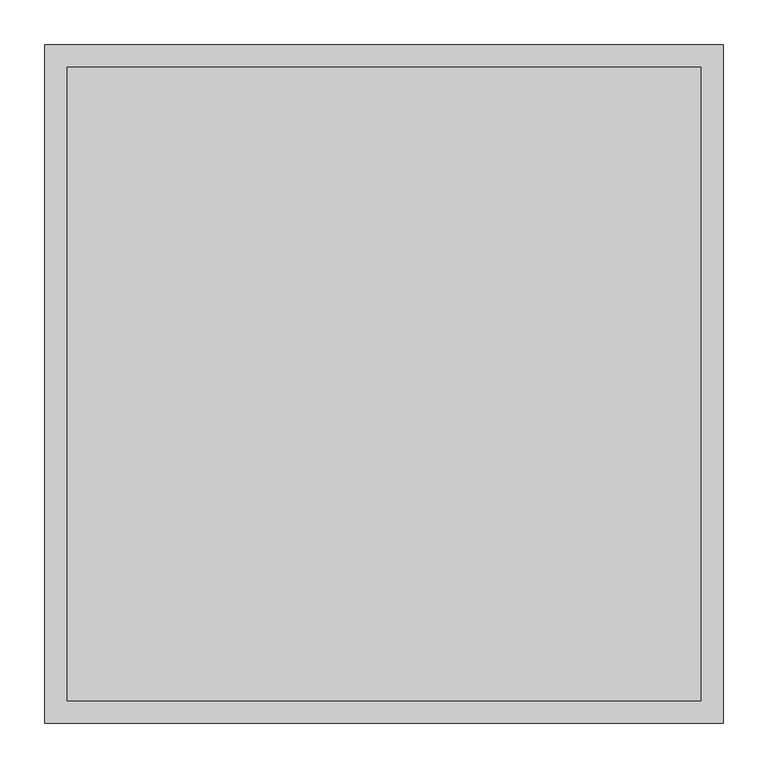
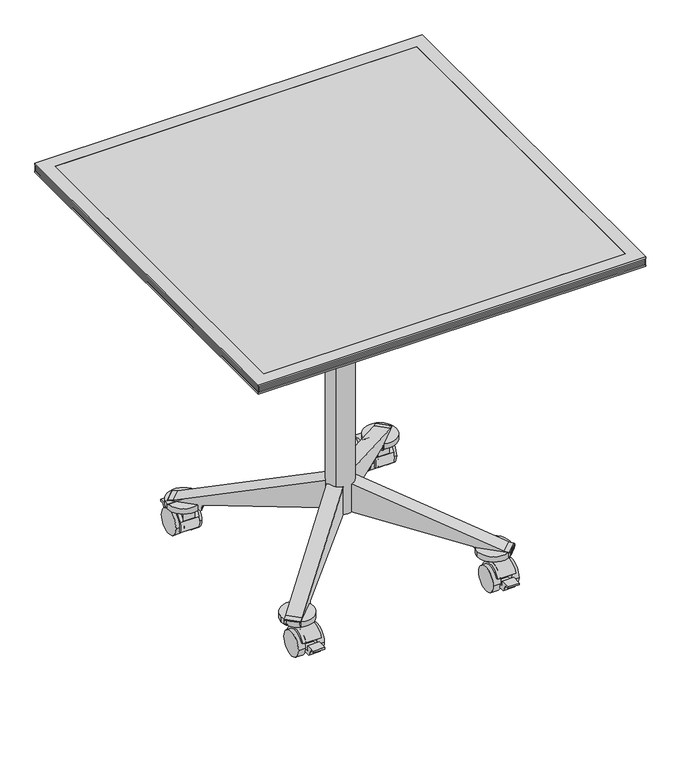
"""IFC4 building model written with IfcOpenShell, lengths in millimetres: furniture geometry, Coalesse_AM_Table_Conference_Ballet_Square : 30L x 30W - Flip/Caster."""

import ifcopenshell
import ifcopenshell.guid

model = None  # the IFC model being written
_history = None  # IfcOwnerHistory: only IFC2X3 demands one
_inside = {}  # id of a spatial element -> (the spatial element, [elements in it])
_under = {}  # id of a project, library or spatial element -> (it, [spatial elements below it])
_declared = {}  # id of a project -> (the project, [libraries it declares])
_typed = {}  # id of a type object -> (the type object, [elements of that type])
_made_of = {}  # id of a material, layer set ... -> (it, [elements and type objects made of it])


def new_model(schema):
    """Start an empty IFC model of exactly this schema.

    Asked for "IFC4X3", IfcOpenShell would pick the latest addendum, in which some entities
    have other attributes; the version numbers below select the first issue.
    IFC2X3 requires an IfcOwnerHistory on every rooted entity: one is made here for all.
    """
    global model, _history
    if schema == "IFC4X3":
        model = ifcopenshell.file(schema_version=(4, 3, 0, 0))
    else:
        model = ifcopenshell.file(schema=schema)
    _inside.clear()
    _under.clear()
    _declared.clear()
    _typed.clear()
    _made_of.clear()
    _history = None
    if model.schema == "IFC2X3":
        org = make("IfcOrganization", Name="unknown")
        user = make(
            "IfcPersonAndOrganization",
            ThePerson=make("IfcPerson", FamilyName="unknown"),
            TheOrganization=org,
        )
        app = make(
            "IfcApplication",
            ApplicationDeveloper=org,
            Version="unknown",
            ApplicationFullName="unknown",
            ApplicationIdentifier="unknown",
        )
        _history = make(
            "IfcOwnerHistory",
            OwningUser=user,
            OwningApplication=app,
            ChangeAction="ADDED",
            CreationDate=0,
        )
    return model


def make(cls, **values):
    """One entity of the class cls with the attributes given. An attribute that is None is left unset."""
    return model.create_entity(
        cls, **{name: value for name, value in values.items() if value is not None}
    )


def rooted(cls, **values):
    """An entity with a GlobalId (a new one), such as an element, a storey or a relation."""
    return make(cls, GlobalId=ifcopenshell.guid.new(), OwnerHistory=_history, **values)


def si_unit(unit_type, name, prefix=None):
    """IfcSIUnit, for example si_unit("LENGTHUNIT", "METRE", prefix="MILLI")."""
    return make("IfcSIUnit", UnitType=unit_type, Prefix=prefix, Name=name)


def assignment(units):
    """IfcUnitAssignment: the units of a project."""
    return None if units is None else make("IfcUnitAssignment", Units=units)


def point(xyz):
    """IfcCartesianPoint."""
    return None if xyz is None else make("IfcCartesianPoint", Coordinates=xyz)


def direction(xyz):
    """IfcDirection."""
    return None if xyz is None else make("IfcDirection", DirectionRatios=xyz)


def frame(location, z_axis=None, x_axis=None):
    """IfcAxis2Placement3D, a coordinate frame: its origin and axes. An axis left out is left unset."""
    return make(
        "IfcAxis2Placement3D",
        Location=point(location),
        Axis=direction(z_axis),
        RefDirection=direction(x_axis),
    )


def frame_2d(location, x_axis=None):
    """IfcAxis2Placement2D, a coordinate frame in the plane: its origin and x axis."""
    return make(
        "IfcAxis2Placement2D", Location=point(location), RefDirection=direction(x_axis)
    )


def origin():
    """The frame at (0, 0, 0) with its axes left unset."""
    return frame((0.0, 0.0, 0.0))


def place(relative_to, where):
    """IfcLocalPlacement: puts the frame where relative to a parent placement (None: the world)."""
    return make(
        "IfcLocalPlacement", PlacementRelTo=relative_to, RelativePlacement=where
    )


def context(
    kind, dimensions, precision=None, world=None, true_north=None, identifier=None
):
    """IfcGeometricRepresentationContext, for example the 3D "Model" context."""
    return make(
        "IfcGeometricRepresentationContext",
        ContextIdentifier=identifier,
        ContextType=kind,
        CoordinateSpaceDimension=dimensions,
        Precision=precision,
        WorldCoordinateSystem=world,
        TrueNorth=true_north,
    )


def project(units=None, contexts=None):
    """IfcProject with its units and contexts."""
    return rooted(
        "IfcProject",
        Name="project",
        RepresentationContexts=contexts,
        UnitsInContext=assignment(units),
    )


def spatial(cls, under=None, at=None, **own):
    """A site, building, storey or space (cls), placed at a placement, below another one or the project."""
    s = rooted(cls, ObjectPlacement=at, **own)
    if under is not None:
        _under.setdefault(under.id(), (under, []))[1].append(s)
    return s


def polyline(points):
    """IfcPolyline through the points."""
    return make("IfcPolyline", Points=[point(p) for p in points])


def circle_curve(where, radius):
    """IfcCircle in the frame where."""
    return make("IfcCircle", Position=where, Radius=radius)


def trimmed(basis, trim1, trim2, sense, master):
    """IfcTrimmedCurve: the piece of a basis curve between two trims."""
    return make(
        "IfcTrimmedCurve",
        BasisCurve=basis,
        Trim1=trim1,
        Trim2=trim2,
        SenseAgreement=sense,
        MasterRepresentation=master,
    )


def segment(curve, same_sense, transition):
    """IfcCompositeCurveSegment."""
    return make(
        "IfcCompositeCurveSegment",
        Transition=transition,
        SameSense=same_sense,
        ParentCurve=curve,
    )


def composite_curve(segments, self_intersect=None):
    """IfcCompositeCurve: segments joined end to end."""
    return make("IfcCompositeCurve", Segments=segments, SelfIntersect=self_intersect)


def outline(outer, holes=None, kind="AREA"):
    """IfcArbitraryClosedProfileDef: a profile drawn as a closed curve; with holes, ...WithVoids."""
    if holes is None:
        return make("IfcArbitraryClosedProfileDef", ProfileType=kind, OuterCurve=outer)
    return make(
        "IfcArbitraryProfileDefWithVoids",
        ProfileType=kind,
        OuterCurve=outer,
        InnerCurves=holes,
    )


def extrude(swept, where, along, depth):
    """IfcExtrudedAreaSolid: the profile swept, set in the frame where, extruded along a direction by depth."""
    return make(
        "IfcExtrudedAreaSolid",
        SweptArea=swept,
        Position=where,
        ExtrudedDirection=direction(along),
        Depth=depth,
    )


def faces_of(points, faces, orient=None, outer=None):
    """IfcFace entities. A face is a list of loops; a loop is a list of indices into points, from 0.

    orient and outer hold one flag for each loop. By default every Orientation is true, the
    first loop of a face is its IfcFaceOuterBound and the others are IfcFaceBound.
    """
    made = []
    for i, loops in enumerate(faces):
        bounds = []
        for j, loop in enumerate(loops):
            is_outer = j == 0 if outer is None else outer[i][j]
            bounds.append(
                make(
                    "IfcFaceOuterBound" if is_outer else "IfcFaceBound",
                    Bound=make("IfcPolyLoop", Polygon=[points[k] for k in loop]),
                    Orientation=True if orient is None else orient[i][j],
                )
            )
        made.append(make("IfcFace", Bounds=bounds))
    return made


def faceted_brep(points, faces, orient=None, outer=None, voids=None):
    """IfcFacetedBrep: a solid bounded by flat faces; with voids (closed shells), ...WithVoids."""
    shared = [point(p) for p in points]
    hull = make("IfcClosedShell", CfsFaces=faces_of(shared, faces, orient, outer))
    if voids is None:
        return make("IfcFacetedBrep", Outer=hull)
    return make(
        "IfcFacetedBrepWithVoids",
        Outer=hull,
        Voids=[
            make(cls, CfsFaces=faces_of(shared, fs, o, b)) for cls, fs, o, b in voids
        ],
    )


def shape(context_of_items, identifier, shape_type, items):
    """IfcShapeRepresentation: the items that make up one representation, for example the "Body"."""
    return make(
        "IfcShapeRepresentation",
        ContextOfItems=context_of_items,
        RepresentationIdentifier=identifier,
        RepresentationType=shape_type,
        Items=items,
    )


def source(mapping_origin, context_of_items, identifier, shape_type, items):
    """IfcRepresentationMap: a shape defined once, which mapped items show again and again."""
    return make(
        "IfcRepresentationMap",
        MappingOrigin=mapping_origin,
        MappedRepresentation=shape(context_of_items, identifier, shape_type, items),
    )


def transform(
    local_origin,
    x_axis=None,
    y_axis=None,
    z_axis=None,
    scale=None,
    scale2=None,
    scale3=None,
    uniform=True,
):
    """IfcCartesianTransformationOperator3D, or its non-uniform kind. x_axis, y_axis, z_axis: its Axis1, 2, 3."""
    if uniform:
        return make(
            "IfcCartesianTransformationOperator3D",
            Axis1=direction(x_axis),
            Axis2=direction(y_axis),
            LocalOrigin=point(local_origin),
            Scale=scale,
            Axis3=direction(z_axis),
        )
    return make(
        "IfcCartesianTransformationOperator3DnonUniform",
        Axis1=direction(x_axis),
        Axis2=direction(y_axis),
        LocalOrigin=point(local_origin),
        Scale=scale,
        Axis3=direction(z_axis),
        Scale2=scale2,
        Scale3=scale3,
    )


def mapped(mapping_source, mapping_target):
    """IfcMappedItem: shows the shape of a source again, moved by a transform."""
    return make(
        "IfcMappedItem", MappingSource=mapping_source, MappingTarget=mapping_target
    )


def made_of(thing, what):
    """Note that an element or type object is made of a material, layer set ...; save() writes the relation."""
    if what is not None:
        _made_of.setdefault(what.id(), (what, []))[1].append(thing)
    return thing


def element(
    cls,
    number,
    at=None,
    inside=None,
    cuts=None,
    type_object=None,
    material=None,
    context=None,
    identifier="Body",
    shape_type=None,
    held_by="IfcProductDefinitionShape",
    body=None,
    shapes=None,
    **own,
):
    """One element of the class cls, such as IfcWall. Its Tag is "e" and its number.

    at: its placement. inside: the storey or other place that contains it. cuts: it is an
    opening in that element (IfcRelVoidsElement). A single representation is given by context,
    identifier, shape_type and body (its items); several are given by shapes. held_by: the class
    of the entity that holds the representations. save() writes the other relations.
    """
    e = rooted(cls, Tag="e%d" % number, ObjectPlacement=at, **own)
    if body is not None:
        shapes = [shape(context, identifier, shape_type, body)]
    if shapes is not None:
        e.Representation = make(held_by, Representations=shapes)
    if inside is not None:
        _inside.setdefault(inside.id(), (inside, []))[1].append(e)
    if cuts is not None:
        rooted(
            "IfcRelVoidsElement", RelatingBuildingElement=cuts, RelatedOpeningElement=e
        )
    if type_object is not None:
        _typed.setdefault(type_object.id(), (type_object, []))[1].append(e)
    return made_of(e, material)


def aggregate(whole, parts):
    """IfcRelAggregates: a whole, such as a stair, and the parts it consists of."""
    return rooted("IfcRelAggregates", RelatingObject=whole, RelatedObjects=parts)


def save(model, path):
    """Write the relations noted so far, then the file.

    IfcRelAggregates (storeys below a building ...), IfcRelContainedInSpatialStructure (elements
    in a storey), IfcRelDefinesByType, IfcRelAssociatesMaterial and IfcRelDeclares: one each for
    every whole, place, type object, material and project.
    """
    for whole, parts in _under.values():
        aggregate(whole, parts)
    for where, things in _inside.values():
        rooted(
            "IfcRelContainedInSpatialStructure",
            RelatedElements=things,
            RelatingStructure=where,
        )
    for kind, things in _typed.values():
        rooted("IfcRelDefinesByType", RelatedObjects=things, RelatingType=kind)
    for what, things in _made_of.values():
        rooted("IfcRelAssociatesMaterial", RelatedObjects=things, RelatingMaterial=what)
    for by, libraries in _declared.values():
        rooted("IfcRelDeclares", RelatingContext=by, RelatedDefinitions=libraries)
    model.write(path)


def furniture_f3c16c70(model_context):
    return source(origin(), model_context, "Body", "SolidModel", [
        extrude(outline(composite_curve([segment(polyline([(-182.4395783, 14.7931869), (-185.3508649, 16.4051117)]), True, "CONTINUOUS"), segment(trimmed(circle_curve(frame_2d((-208.7663144, 24.9907393)), 24.9398531), [point((-185.3508649, 16.4051117))], [point((-231.2540436, 35.7749086))], True, "CARTESIAN"), True, "CONTINUOUS"), segment(polyline([(-231.2540436, 35.7749086), (-234.6796249, 36.8601197)]), True, "CONTINUOUS"), segment(trimmed(circle_curve(frame_2d((-209.4353674, 26.7032164)), 27.2109394), [point((-234.6796249, 36.8601197))], [point((-197.8152878, 51.3082762))], False, "CARTESIAN"), True, "CONTINUOUS"), segment(trimmed(circle_curve(frame_2d((-207.8788336, 25.8930561)), 27.3351124), [point((-197.8152878, 51.3082762))], [point((-182.4395783, 35.8956886))], False, "CARTESIAN"), True, "CONTINUOUS"), segment(trimmed(circle_curve(frame_2d((-209.2741105, 25.3444377)), 28.8343721), [point((-182.4395783, 35.8956886))], [point((-182.4395783, 14.7931869))], False, "CARTESIAN"), True, "CONTINUOUS")], self_intersect=False)), frame((174.0984431, 0.0, 0.0), z_axis=(1.0, 0.0, 0.0), x_axis=(0.0, 1.0, 0.0)), (0.0, 0.0, 1.0), 36.0286787),
        extrude(outline(composite_curve([segment(trimmed(circle_curve(frame_2d((-208.7663144, 24.9907393)), 24.9398531), [point((-233.7061675, 24.9907393))], [point((-183.8264612, 24.9907393))], False, "CARTESIAN"), True, "CONTINUOUS"), segment(trimmed(circle_curve(frame_2d((-208.7663144, 24.9907393)), 24.9398531), [point((-183.8264612, 24.9907393))], [point((-233.7061675, 24.9907393))], False, "CARTESIAN"), True, "CONTINUOUS")], self_intersect=False)), frame((166.2968952, 0.0, 0.0), z_axis=(1.0, 0.0, 0.0), x_axis=(0.0, 1.0, 0.0)), (0.0, 0.0, 1.0), 14.6120158),
        extrude(outline(composite_curve([segment(polyline([(-197.8152878, 63.5225277), (-182.4395783, 63.5225277), (-182.4395783, 35.8956886)]), True, "CONTINUOUS"), segment(trimmed(circle_curve(frame_2d((-209.2741105, 25.3444377)), 28.8343721), [point((-182.4395783, 35.8956886))], [point((-182.4395783, 14.7931869))], False, "CARTESIAN"), True, "CONTINUOUS"), segment(polyline([(-182.4395783, 14.7931869), (-195.904393, 22.2484025), (-198.9802659, 16.6930892)]), True, "CONTINUOUS"), segment(trimmed(circle_curve(frame_2d((-208.672695, 25.0010719)), 12.7658043), [point((-198.9802659, 16.6930892))], [point((-218.9375545, 17.4117096))], False, "CARTESIAN"), True, "CONTINUOUS"), segment(polyline([(-218.9375545, 17.4117096), (-244.706152, 17.4117096), (-253.6776476, 31.7691038), (-260.4030844, 31.7691038), (-260.4030844, 35.1210973), (-241.3530844, 35.1210973), (-241.3530844, 25.0010719), (-222.0637731, 25.0010719), (-219.8001714, 32.1463658), (-234.6796249, 36.8601197)]), True, "CONTINUOUS"), segment(trimmed(circle_curve(frame_2d((-209.4353674, 26.7032164)), 27.2109394), [point((-234.6796249, 36.8601197))], [point((-197.8152878, 51.3082762))], False, "CARTESIAN"), True, "CONTINUOUS"), segment(polyline([(-197.8152878, 51.3082762), (-197.8152878, 63.5225277)]), True, "CONTINUOUS")], self_intersect=False)), frame((179.2633359, 0.0, 0.0), z_axis=(1.0, 0.0, 0.0), x_axis=(0.0, 1.0, 0.0)), (0.0, 0.0, 1.0), 22.3970625),
        extrude(outline(composite_curve([segment(trimmed(circle_curve(frame_2d((-208.7663144, 24.9907393)), 24.9398531), [point((-233.7061675, 24.9907393))], [point((-183.8264612, 24.9907393))], False, "CARTESIAN"), True, "CONTINUOUS"), segment(trimmed(circle_curve(frame_2d((-208.7663144, 24.9907393)), 24.9398531), [point((-183.8264612, 24.9907393))], [point((-233.7061675, 24.9907393))], False, "CARTESIAN"), True, "CONTINUOUS")], self_intersect=False)), frame((203.3322938, 0.0, 0.0), z_axis=(1.0, 0.0, 0.0), x_axis=(0.0, 1.0, 0.0)), (0.0, 0.0, 1.0), 13.7103424),
        extrude(outline(composite_curve([segment(polyline([(-182.4395783, 14.7931869), (-185.3508649, 16.4051117)]), True, "CONTINUOUS"), segment(trimmed(circle_curve(frame_2d((-208.7663144, 24.9907393)), 24.9398531), [point((-185.3508649, 16.4051117))], [point((-231.2540436, 35.7749086))], True, "CARTESIAN"), True, "CONTINUOUS"), segment(polyline([(-231.2540436, 35.7749086), (-234.6796249, 36.8601197)]), True, "CONTINUOUS"), segment(trimmed(circle_curve(frame_2d((-209.4353674, 26.7032164)), 27.2109394), [point((-234.6796249, 36.8601197))], [point((-197.8152878, 51.3082762))], False, "CARTESIAN"), True, "CONTINUOUS"), segment(trimmed(circle_curve(frame_2d((-207.8788336, 25.8930561)), 27.3351124), [point((-197.8152878, 51.3082762))], [point((-182.4395783, 35.8956886))], False, "CARTESIAN"), True, "CONTINUOUS"), segment(trimmed(circle_curve(frame_2d((-209.2741105, 25.3444377)), 28.8343721), [point((-182.4395783, 35.8956886))], [point((-182.4395783, 14.7931869))], False, "CARTESIAN"), True, "CONTINUOUS")], self_intersect=False)), frame((-209.7070094, 0.0, 0.0), z_axis=(1.0, 0.0, 0.0), x_axis=(0.0, 1.0, 0.0)), (0.0, 0.0, 1.0), 36.86129),
        extrude(outline(composite_curve([segment(trimmed(circle_curve(frame_2d((-208.7663144, 24.9907393)), 24.9398531), [point((-233.7061675, 24.9907393))], [point((-183.8264612, 24.9907393))], False, "CARTESIAN"), True, "CONTINUOUS"), segment(trimmed(circle_curve(frame_2d((-208.7663144, 24.9907393)), 24.9398531), [point((-183.8264612, 24.9907393))], [point((-233.7061675, 24.9907393))], False, "CARTESIAN"), True, "CONTINUOUS")], self_intersect=False)), frame((-180.908911, 0.0, 0.0), z_axis=(1.0, 0.0, 0.0), x_axis=(0.0, 1.0, 0.0)), (0.0, 0.0, 1.0), 14.6120158),
        extrude(outline(composite_curve([segment(polyline([(-197.8152878, 63.5225277), (-182.4395783, 63.5225277), (-182.4395783, 35.8956886)]), True, "CONTINUOUS"), segment(trimmed(circle_curve(frame_2d((-209.2741105, 25.3444377)), 28.8343721), [point((-182.4395783, 35.8956886))], [point((-182.4395783, 14.7931869))], False, "CARTESIAN"), True, "CONTINUOUS"), segment(polyline([(-182.4395783, 14.7931869), (-195.904393, 22.2484025), (-198.9802659, 16.6930892)]), True, "CONTINUOUS"), segment(trimmed(circle_curve(frame_2d((-208.672695, 25.0010719)), 12.7658043), [point((-198.9802659, 16.6930892))], [point((-218.9375545, 17.4117096))], False, "CARTESIAN"), True, "CONTINUOUS"), segment(polyline([(-218.9375545, 17.4117096), (-244.706152, 17.4117096), (-253.6776476, 31.7691038), (-260.4030844, 31.7691038), (-260.4030844, 35.1210973), (-241.3530844, 35.1210973), (-241.3530844, 25.0010719), (-222.0637731, 25.0010719), (-219.8001714, 32.1463658), (-234.6796249, 36.8601197)]), True, "CONTINUOUS"), segment(trimmed(circle_curve(frame_2d((-209.4353674, 26.7032164)), 27.2109394), [point((-234.6796249, 36.8601197))], [point((-197.8152878, 51.3082762))], False, "CARTESIAN"), True, "CONTINUOUS"), segment(polyline([(-197.8152878, 51.3082762), (-197.8152878, 63.5225277)]), True, "CONTINUOUS")], self_intersect=False)), frame((-203.3322938, 0.0, 0.0), z_axis=(1.0, 0.0, 0.0), x_axis=(0.0, 1.0, 0.0)), (0.0, 0.0, 1.0), 22.4233828),
        extrude(outline(composite_curve([segment(trimmed(circle_curve(frame_2d((-208.7663144, 24.9907393)), 24.9398531), [point((-233.7061675, 24.9907393))], [point((-183.8264612, 24.9907393))], False, "CARTESIAN"), True, "CONTINUOUS"), segment(trimmed(circle_curve(frame_2d((-208.7663144, 24.9907393)), 24.9398531), [point((-183.8264612, 24.9907393))], [point((-233.7061675, 24.9907393))], False, "CARTESIAN"), True, "CONTINUOUS")], self_intersect=False)), frame((-217.0426362, 0.0, 0.0), z_axis=(1.0, 0.0, 0.0), x_axis=(0.0, 1.0, 0.0)), (0.0, 0.0, 1.0), 13.7103424),
        extrude(outline(composite_curve([segment(trimmed(circle_curve(frame_2d((1.04e-05, -1.04e-05)), 25.3999999), [point((-17.9605018, -17.9605225))], [point((17.9605225, 17.9605018))], False, "CARTESIAN"), True, "CONTINUOUS"), segment(trimmed(circle_curve(frame_2d((1.04e-05, -1.04e-05)), 25.3999999), [point((17.9605225, 17.9605018))], [point((-17.9605018, -17.9605225))], False, "CARTESIAN"), True, "CONTINUOUS")], self_intersect=False)), frame((0.0, 0.0, 607.6784119), z_axis=(0.0, 0.0, 1.0), x_axis=(1.0, 0.0, 0.0)), (0.0, 0.0, 1.0), 50.3081696),
        extrude(outline(composite_curve([segment(trimmed(circle_curve(frame_2d((209.2741105, 25.3444377)), 28.8343721), [point((182.4395783, 14.7931869))], [point((182.4395783, 35.8956886))], False, "CARTESIAN"), True, "CONTINUOUS"), segment(trimmed(circle_curve(frame_2d((207.8788336, 25.8930561)), 27.3351124), [point((182.4395783, 35.8956886))], [point((197.8152878, 51.3082762))], False, "CARTESIAN"), True, "CONTINUOUS"), segment(trimmed(circle_curve(frame_2d((209.4353674, 26.7032164)), 27.2109394), [point((197.8152878, 51.3082762))], [point((234.6796249, 36.8601197))], False, "CARTESIAN"), True, "CONTINUOUS"), segment(polyline([(234.6796249, 36.8601197), (231.2540436, 35.7749086)]), True, "CONTINUOUS"), segment(trimmed(circle_curve(frame_2d((208.7663144, 24.9907393)), 24.9398531), [point((231.2540436, 35.7749086))], [point((185.3508649, 16.4051117))], True, "CARTESIAN"), True, "CONTINUOUS"), segment(polyline([(185.3508649, 16.4051117), (182.4395783, 14.7931869)]), True, "CONTINUOUS")], self_intersect=False)), frame((174.0984431, 0.0, 0.0), z_axis=(1.0, 0.0, 0.0), x_axis=(0.0, 1.0, 0.0)), (0.0, 0.0, 1.0), 36.0286787),
        extrude(outline(composite_curve([segment(trimmed(circle_curve(frame_2d((208.7663144, 24.9907393)), 24.9398531), [point((233.7061675, 24.9907393))], [point((183.8264612, 24.9907393))], False, "CARTESIAN"), True, "CONTINUOUS"), segment(trimmed(circle_curve(frame_2d((208.7663144, 24.9907393)), 24.9398531), [point((183.8264612, 24.9907393))], [point((233.7061675, 24.9907393))], False, "CARTESIAN"), True, "CONTINUOUS")], self_intersect=False)), frame((166.2968952, 0.0, 0.0), z_axis=(1.0, 0.0, 0.0), x_axis=(0.0, 1.0, 0.0)), (0.0, 0.0, 1.0), 14.6120158),
        extrude(outline(composite_curve([segment(polyline([(197.8152878, 63.5225277), (197.8152878, 51.3082762)]), True, "CONTINUOUS"), segment(trimmed(circle_curve(frame_2d((209.4353674, 26.7032164)), 27.2109394), [point((197.8152878, 51.3082762))], [point((234.6796249, 36.8601197))], False, "CARTESIAN"), True, "CONTINUOUS"), segment(polyline([(234.6796249, 36.8601197), (219.8001714, 32.1463658), (222.0637731, 25.0010719), (241.3530844, 25.0010719), (241.3530844, 35.1210973), (260.4030844, 35.1210973), (260.4030844, 31.7691038), (253.6776476, 31.7691038), (244.706152, 17.4117096), (218.9375545, 17.4117096)]), True, "CONTINUOUS"), segment(trimmed(circle_curve(frame_2d((208.672695, 25.0010719)), 12.7658043), [point((218.9375545, 17.4117096))], [point((198.9802659, 16.6930892))], False, "CARTESIAN"), True, "CONTINUOUS"), segment(polyline([(198.9802659, 16.6930892), (195.904393, 22.2484025), (182.4395783, 14.7931869)]), True, "CONTINUOUS"), segment(trimmed(circle_curve(frame_2d((209.2741105, 25.3444377)), 28.8343721), [point((182.4395783, 14.7931869))], [point((182.4395783, 35.8956886))], False, "CARTESIAN"), True, "CONTINUOUS"), segment(polyline([(182.4395783, 35.8956886), (182.4395783, 63.5225277), (197.8152878, 63.5225277)]), True, "CONTINUOUS")], self_intersect=False)), frame((179.2633359, 0.0, 0.0), z_axis=(1.0, 0.0, 0.0), x_axis=(0.0, 1.0, 0.0)), (0.0, 0.0, 1.0), 22.3970625),
        extrude(outline(composite_curve([segment(trimmed(circle_curve(frame_2d((208.7663144, 24.9907393)), 24.9398531), [point((233.7061675, 24.9907393))], [point((183.8264612, 24.9907393))], False, "CARTESIAN"), True, "CONTINUOUS"), segment(trimmed(circle_curve(frame_2d((208.7663144, 24.9907393)), 24.9398531), [point((183.8264612, 24.9907393))], [point((233.7061675, 24.9907393))], False, "CARTESIAN"), True, "CONTINUOUS")], self_intersect=False)), frame((203.3322938, 0.0, 0.0), z_axis=(1.0, 0.0, 0.0), x_axis=(0.0, 1.0, 0.0)), (0.0, 0.0, 1.0), 13.7103424),
        extrude(outline(composite_curve([segment(trimmed(circle_curve(frame_2d((209.2741105, 25.3444377)), 28.8343721), [point((182.4395783, 14.7931869))], [point((182.4395783, 35.8956886))], False, "CARTESIAN"), True, "CONTINUOUS"), segment(trimmed(circle_curve(frame_2d((207.8788336, 25.8930561)), 27.3351124), [point((182.4395783, 35.8956886))], [point((197.8152878, 51.3082762))], False, "CARTESIAN"), True, "CONTINUOUS"), segment(trimmed(circle_curve(frame_2d((209.4353674, 26.7032164)), 27.2109394), [point((197.8152878, 51.3082762))], [point((234.6796249, 36.8601197))], False, "CARTESIAN"), True, "CONTINUOUS"), segment(polyline([(234.6796249, 36.8601197), (231.2540436, 35.7749086)]), True, "CONTINUOUS"), segment(trimmed(circle_curve(frame_2d((208.7663144, 24.9907393)), 24.9398531), [point((231.2540436, 35.7749086))], [point((185.3508649, 16.4051117))], True, "CARTESIAN"), True, "CONTINUOUS"), segment(polyline([(185.3508649, 16.4051117), (182.4395783, 14.7931869)]), True, "CONTINUOUS")], self_intersect=False)), frame((-209.7070094, 0.0, 0.0), z_axis=(1.0, 0.0, 0.0), x_axis=(0.0, 1.0, 0.0)), (0.0, 0.0, 1.0), 36.86129),
        extrude(outline(composite_curve([segment(trimmed(circle_curve(frame_2d((208.7663144, 24.9907393)), 24.9398531), [point((233.7061675, 24.9907393))], [point((183.8264612, 24.9907393))], False, "CARTESIAN"), True, "CONTINUOUS"), segment(trimmed(circle_curve(frame_2d((208.7663144, 24.9907393)), 24.9398531), [point((183.8264612, 24.9907393))], [point((233.7061675, 24.9907393))], False, "CARTESIAN"), True, "CONTINUOUS")], self_intersect=False)), frame((-180.908911, 0.0, 0.0), z_axis=(1.0, 0.0, 0.0), x_axis=(0.0, 1.0, 0.0)), (0.0, 0.0, 1.0), 14.6120158),
        extrude(outline(composite_curve([segment(polyline([(197.8152878, 63.5225277), (197.8152878, 51.3082762)]), True, "CONTINUOUS"), segment(trimmed(circle_curve(frame_2d((209.4353674, 26.7032164)), 27.2109394), [point((197.8152878, 51.3082762))], [point((234.6796249, 36.8601197))], False, "CARTESIAN"), True, "CONTINUOUS"), segment(polyline([(234.6796249, 36.8601197), (219.8001714, 32.1463658), (222.0637731, 25.0010719), (241.3530844, 25.0010719), (241.3530844, 35.1210973), (260.4030844, 35.1210973), (260.4030844, 31.7691038), (253.6776476, 31.7691038), (244.706152, 17.4117096), (218.9375545, 17.4117096)]), True, "CONTINUOUS"), segment(trimmed(circle_curve(frame_2d((208.672695, 25.0010719)), 12.7658043), [point((218.9375545, 17.4117096))], [point((198.9802659, 16.6930892))], False, "CARTESIAN"), True, "CONTINUOUS"), segment(polyline([(198.9802659, 16.6930892), (195.904393, 22.2484025), (182.4395783, 14.7931869)]), True, "CONTINUOUS"), segment(trimmed(circle_curve(frame_2d((209.2741105, 25.3444377)), 28.8343721), [point((182.4395783, 14.7931869))], [point((182.4395783, 35.8956886))], False, "CARTESIAN"), True, "CONTINUOUS"), segment(polyline([(182.4395783, 35.8956886), (182.4395783, 63.5225277), (197.8152878, 63.5225277)]), True, "CONTINUOUS")], self_intersect=False)), frame((-203.3322938, 0.0, 0.0), z_axis=(1.0, 0.0, 0.0), x_axis=(0.0, 1.0, 0.0)), (0.0, 0.0, 1.0), 22.4233828),
        extrude(outline(composite_curve([segment(trimmed(circle_curve(frame_2d((208.7663144, 24.9907393)), 24.9398531), [point((233.7061675, 24.9907393))], [point((183.8264612, 24.9907393))], False, "CARTESIAN"), True, "CONTINUOUS"), segment(trimmed(circle_curve(frame_2d((208.7663144, 24.9907393)), 24.9398531), [point((183.8264612, 24.9907393))], [point((233.7061675, 24.9907393))], False, "CARTESIAN"), True, "CONTINUOUS")], self_intersect=False)), frame((-217.0426362, 0.0, 0.0), z_axis=(1.0, 0.0, 0.0), x_axis=(0.0, 1.0, 0.0)), (0.0, 0.0, 1.0), 13.7103424),
        extrude(outline(polyline([(158.4621346, 17.0356733), (169.8930132, 8.1048922), (169.8930132, 0.8331186), (159.98106, -9.0788345), (38.5409959, -9.0788345), (28.462086, 1.0000754), (28.462086, 7.6856478), (37.8121114, 17.0356733), (158.4621346, 17.0356733)])), frame((0.0, 0.0, 687.2912849), z_axis=(0.0, 0.0, 1.0), x_axis=(1.0, 0.0, 0.0)), (0.0, 0.0, 1.0), 6.5168503),
        extrude(outline(composite_curve([segment(trimmed(circle_curve(frame_2d((669.1002966, -84.2761543)), 7.8975043), [point((669.1002966, -92.1736586))], [point((669.1002966, -76.3786501))], False, "CARTESIAN"), True, "CONTINUOUS"), segment(trimmed(circle_curve(frame_2d((669.1002966, -84.2761543)), 7.8975043), [point((669.1002966, -76.3786501))], [point((669.1002966, -92.1736586))], False, "CARTESIAN"), True, "CONTINUOUS")], self_intersect=False)), frame((0.0, -102.0227757, 0.0), z_axis=(0.0, 1.0, 0.0), x_axis=(0.0, 0.0, 1.0)), (0.0, 0.0, 1.0), 207.3263413),
        extrude(outline(polyline([(77.1619615, -102.0227757), (72.7168839, -102.0227757), (72.7168839, 105.3035655), (77.1619615, 105.3035655), (77.1619615, -102.0227757)])), frame((0.0, 0.0, 657.9865814), z_axis=(0.0, 0.0, 1.0), x_axis=(1.0, 0.0, 0.0)), (0.0, 0.0, 1.0), 25.6753708),
        extrude(outline(polyline([(105.3035655, 652.7037643), (101.8153095, 652.7037643), (101.8153095, 700.0114872), (-94.3997971, 700.0114872), (-94.3997971, 652.7037643), (-97.8879563, 652.7037643), (-97.8879563, 704.85), (105.3035655, 704.85), (105.3035655, 652.7037643)])), frame((-111.7977681, 0.0, 0.0), z_axis=(1.0, 0.0, 0.0), x_axis=(0.0, 1.0, 0.0)), (0.0, 0.0, 1.0), 220.3746008),
        extrude(outline(polyline([(-91.8596905, 688.7419716), (99.2752998, 688.7419716), (99.2752998, 652.7037643), (94.1954742, 652.7037643), (94.1954742, 683.6619522), (-86.7795016, 683.6619522), (-86.7795016, 652.7037643), (-91.8596905, 652.7037643), (-91.8596905, 688.7419716)])), frame((-111.7977681, 0.0, 0.0), z_axis=(1.0, 0.0, 0.0), x_axis=(0.0, 1.0, 0.0)), (0.0, 0.0, 1.0), 220.3746008),
        extrude(outline(composite_curve([segment(trimmed(circle_curve(frame_2d((-194.715793, 197.3207687)), 31.75), [point((-226.465793, 197.3207687))], [point((-162.965793, 197.3207687))], False, "CARTESIAN"), True, "CONTINUOUS"), segment(trimmed(circle_curve(frame_2d((-194.715793, 197.3207687)), 31.75), [point((-162.965793, 197.3207687))], [point((-226.465793, 197.3207687))], False, "CARTESIAN"), True, "CONTINUOUS")], self_intersect=False)), frame((0.0, 0.0, 62.0397209), z_axis=(0.0, 0.0, 1.0), x_axis=(1.0, 0.0, 0.0)), (0.0, 0.0, 1.0), 10.7840801),
        extrude(outline(composite_curve([segment(trimmed(circle_curve(frame_2d((191.7194605, 196.5270187)), 31.75), [point((159.9694605, 196.5270187))], [point((223.4694605, 196.5270187))], False, "CARTESIAN"), True, "CONTINUOUS"), segment(trimmed(circle_curve(frame_2d((191.7194605, 196.5270187)), 31.75), [point((223.4694605, 196.5270187))], [point((159.9694605, 196.5270187))], False, "CARTESIAN"), True, "CONTINUOUS")], self_intersect=False)), frame((0.0, 0.0, 62.0397209), z_axis=(0.0, 0.0, 1.0), x_axis=(1.0, 0.0, 0.0)), (0.0, 0.0, 1.0), 10.7840801),
        extrude(outline(composite_curve([segment(trimmed(circle_curve(frame_2d((-194.715793, -191.2787692)), 31.75), [point((-226.465793, -191.2787692))], [point((-162.965793, -191.2787692))], False, "CARTESIAN"), True, "CONTINUOUS"), segment(trimmed(circle_curve(frame_2d((-194.715793, -191.2787692)), 31.75), [point((-162.965793, -191.2787692))], [point((-226.465793, -191.2787692))], False, "CARTESIAN"), True, "CONTINUOUS")], self_intersect=False)), frame((0.0, 0.0, 62.0397209), z_axis=(0.0, 0.0, 1.0), x_axis=(1.0, 0.0, 0.0)), (0.0, 0.0, 1.0), 10.7840801),
        extrude(outline(composite_curve([segment(trimmed(circle_curve(frame_2d((191.7194605, -190.4850192)), 31.75), [point((159.9694605, -190.4850192))], [point((223.4694605, -190.4850192))], False, "CARTESIAN"), True, "CONTINUOUS"), segment(trimmed(circle_curve(frame_2d((191.7194605, -190.4850192)), 31.75), [point((223.4694605, -190.4850192))], [point((159.9694605, -190.4850192))], False, "CARTESIAN"), True, "CONTINUOUS")], self_intersect=False)), frame((0.0, 0.0, 62.0397209), z_axis=(0.0, 0.0, 1.0), x_axis=(1.0, 0.0, 0.0)), (0.0, 0.0, 1.0), 10.7840801),
        extrude(outline(composite_curve([segment(polyline([(-57.749273, 0.0), (0.0, 0.0), (-90.9931074, -269.8641919), (-92.3030079, -279.1846177)]), True, "CONTINUOUS"), segment(trimmed(circle_curve(frame_2d((-93.9206951, -278.9572666)), 1.6335852), [point((-92.3030079, -279.1846177))], [point((-93.8206014, -280.5877823))], False, "CARTESIAN"), True, "CONTINUOUS"), segment(trimmed(circle_curve(frame_2d((-95.8523928, -247.4901147)), 33.1599725), [point((-93.8206014, -280.5877823))], [point((-101.682402, -280.1335639))], False, "CARTESIAN"), True, "CONTINUOUS"), segment(trimmed(circle_curve(frame_2d((-101.2796868, -277.8786768)), 2.2905666), [point((-101.682402, -280.1335639))], [point((-103.5674671, -277.7657306))], False, "CARTESIAN"), True, "CONTINUOUS"), segment(polyline([(-103.5674671, -277.7657306), (-103.5674671, -222.4322812)]), True, "CONTINUOUS"), segment(trimmed(circle_curve(frame_2d((-100.6154331, -221.9840334)), 2.9858719), [point((-103.5674671, -222.4322812))], [point((-100.2998684, -219.0148838))], False, "CARTESIAN"), True, "CONTINUOUS"), segment(trimmed(circle_curve(frame_2d((-98.3053249, -200.2482144)), 18.872363), [point((-100.2998684, -219.0148838))], [point((-94.5016021, -218.7332835))], True, "CARTESIAN"), True, "CONTINUOUS"), segment(trimmed(circle_curve(frame_2d((-95.1495986, -215.5841949)), 3.2150673), [point((-94.5016021, -218.7332835))], [point((-91.9741141, -216.0871422))], True, "CARTESIAN"), True, "CONTINUOUS"), segment(polyline([(-91.9741141, -216.0871422), (-57.749273, 0.0)]), True, "CONTINUOUS")], self_intersect=False)), frame((-23.5273141, 7.7834997, 165.607188), z_axis=(0.7071067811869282, 0.707106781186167, 0.0), x_axis=(0.0, 0.0, 1.0)), (0.0, 0.0, 1.0), 29.2174476),
        extrude(outline(composite_curve([segment(polyline([(-57.749273, 44.2801775), (-91.9741141, 260.3673198)]), True, "CONTINUOUS"), segment(trimmed(circle_curve(frame_2d((-95.1495986, 259.8643724)), 3.2150673), [point((-91.9741141, 260.3673198))], [point((-94.5016021, 263.013461))], True, "CARTESIAN"), True, "CONTINUOUS"), segment(trimmed(circle_curve(frame_2d((-98.3053249, 244.5283919)), 18.872363), [point((-94.5016021, 263.013461))], [point((-100.2998684, 263.2950613))], True, "CARTESIAN"), True, "CONTINUOUS"), segment(trimmed(circle_curve(frame_2d((-100.6154331, 266.2642109)), 2.9858719), [point((-100.2998684, 263.2950613))], [point((-103.5674671, 266.7124587))], False, "CARTESIAN"), True, "CONTINUOUS"), segment(polyline([(-103.5674671, 266.7124587), (-103.5674671, 322.0459081)]), True, "CONTINUOUS"), segment(trimmed(circle_curve(frame_2d((-101.2796868, 322.1588543)), 2.2905666), [point((-103.5674671, 322.0459081))], [point((-101.682402, 324.4137415))], False, "CARTESIAN"), True, "CONTINUOUS"), segment(trimmed(circle_curve(frame_2d((-95.8523928, 291.7702923)), 33.1599725), [point((-101.682402, 324.4137415))], [point((-93.8206014, 324.8679598))], False, "CARTESIAN"), True, "CONTINUOUS"), segment(trimmed(circle_curve(frame_2d((-93.9206951, 323.2374442)), 1.6335852), [point((-93.8206014, 324.8679598))], [point((-92.3030079, 323.4647953))], False, "CARTESIAN"), True, "CONTINUOUS"), segment(polyline([(-92.3030079, 323.4647953), (-90.9931074, 314.1443694), (0.0, 44.2801775), (-57.749273, 44.2801775)]), True, "CONTINUOUS")], self_intersect=False)), frame((-23.5273141, 7.7834997, 165.607188), z_axis=(0.7071067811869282, 0.707106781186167, 0.0), x_axis=(0.0, 0.0, 1.0)), (0.0, 0.0, 1.0), 29.2174476),
        extrude(outline(composite_curve([segment(polyline([(-57.749273, 0.0), (0.0, 0.0), (-90.9931074, -269.8641919), (-92.3030079, -279.1846177)]), True, "CONTINUOUS"), segment(trimmed(circle_curve(frame_2d((-93.9206951, -278.9572666)), 1.6335852), [point((-92.3030079, -279.1846177))], [point((-93.8206014, -280.5877823))], False, "CARTESIAN"), True, "CONTINUOUS"), segment(trimmed(circle_curve(frame_2d((-95.8523928, -247.4901147)), 33.1599725), [point((-93.8206014, -280.5877823))], [point((-101.682402, -280.1335639))], False, "CARTESIAN"), True, "CONTINUOUS"), segment(trimmed(circle_curve(frame_2d((-101.2796868, -277.8786768)), 2.2905666), [point((-101.682402, -280.1335639))], [point((-103.5674671, -277.7657306))], False, "CARTESIAN"), True, "CONTINUOUS"), segment(polyline([(-103.5674671, -277.7657306), (-103.5674671, -222.4322812)]), True, "CONTINUOUS"), segment(trimmed(circle_curve(frame_2d((-100.6154331, -221.9840334)), 2.9858719), [point((-103.5674671, -222.4322812))], [point((-100.2998684, -219.0148838))], False, "CARTESIAN"), True, "CONTINUOUS"), segment(trimmed(circle_curve(frame_2d((-98.3053249, -200.2482144)), 18.872363), [point((-100.2998684, -219.0148838))], [point((-94.5016021, -218.7332835))], True, "CARTESIAN"), True, "CONTINUOUS"), segment(trimmed(circle_curve(frame_2d((-95.1495986, -215.5841949)), 3.2150673), [point((-94.5016021, -218.7332835))], [point((-91.9741141, -216.0871422))], True, "CARTESIAN"), True, "CONTINUOUS"), segment(polyline([(-91.9741141, -216.0871422), (-57.749273, 0.0)]), True, "CONTINUOUS")], self_intersect=False)), frame((-7.7834997, -23.5273141, 165.607188), z_axis=(-0.7071067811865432, 0.7071067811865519, 0.0), x_axis=(0.0, 0.0, 1.0)), (0.0, 0.0, 1.0), 29.2174476),
        extrude(outline(composite_curve([segment(polyline([(-57.749273, 44.2801775), (-91.9741141, 260.3673198)]), True, "CONTINUOUS"), segment(trimmed(circle_curve(frame_2d((-95.1495986, 259.8643724)), 3.2150673), [point((-91.9741141, 260.3673198))], [point((-94.5016021, 263.013461))], True, "CARTESIAN"), True, "CONTINUOUS"), segment(trimmed(circle_curve(frame_2d((-98.3053249, 244.5283919)), 18.872363), [point((-94.5016021, 263.013461))], [point((-100.2998684, 263.2950613))], True, "CARTESIAN"), True, "CONTINUOUS"), segment(trimmed(circle_curve(frame_2d((-100.6154331, 266.2642109)), 2.9858719), [point((-100.2998684, 263.2950613))], [point((-103.5674671, 266.7124587))], False, "CARTESIAN"), True, "CONTINUOUS"), segment(polyline([(-103.5674671, 266.7124587), (-103.5674671, 322.0459081)]), True, "CONTINUOUS"), segment(trimmed(circle_curve(frame_2d((-101.2796868, 322.1588543)), 2.2905666), [point((-103.5674671, 322.0459081))], [point((-101.682402, 324.4137415))], False, "CARTESIAN"), True, "CONTINUOUS"), segment(trimmed(circle_curve(frame_2d((-95.8523928, 291.7702923)), 33.1599725), [point((-101.682402, 324.4137415))], [point((-93.8206014, 324.8679598))], False, "CARTESIAN"), True, "CONTINUOUS"), segment(trimmed(circle_curve(frame_2d((-93.9206951, 323.2374442)), 1.6335852), [point((-93.8206014, 324.8679598))], [point((-92.3030079, 323.4647953))], False, "CARTESIAN"), True, "CONTINUOUS"), segment(polyline([(-92.3030079, 323.4647953), (-90.9931074, 314.1443694), (0.0, 44.2801775), (-57.749273, 44.2801775)]), True, "CONTINUOUS")], self_intersect=False)), frame((-7.7834997, -23.5273141, 165.607188), z_axis=(-0.7071067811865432, 0.7071067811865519, 0.0), x_axis=(0.0, 0.0, 1.0)), (0.0, 0.0, 1.0), 29.2174476),
        extrude(outline(composite_curve([segment(trimmed(circle_curve(frame_2d((1.04e-05, -1.04e-05)), 25.3999999), [point((-17.9605018, -17.9605225))], [point((17.9605225, 17.9605018))], False, "CARTESIAN"), True, "CONTINUOUS"), segment(trimmed(circle_curve(frame_2d((1.04e-05, -1.04e-05)), 25.3999999), [point((17.9605225, 17.9605018))], [point((-17.9605018, -17.9605225))], False, "CARTESIAN"), True, "CONTINUOUS")], self_intersect=False)), frame((0.0, 0.0, 107.857915), z_axis=(0.0, 0.0, 1.0), x_axis=(1.0, 0.0, 0.0)), (0.0, 0.0, 1.0), 499.8204968),
        faceted_brep([(-381.0003633, 381.0, 704.85), (-355.6003876, 355.6000242, 698.5000242), (-355.6003876, -355.5999516, 698.5000242), (-381.0003633, -380.9999273, 704.85), (-381.0003633, 381.0, 708.0250242), (-381.0003633, -380.9999273, 708.0250242), (-377.8253755, 377.8250121, 709.6125), (-377.8253755, -377.8249394, 709.6125), (-381.0003633, 381.0, 711.1999758), (-381.0003633, -380.9999273, 711.1999758), (-377.8253755, 377.8250121, 712.7875242), (-377.8253755, -377.8249394, 712.7875242), (-381.0003633, 381.0, 714.375), (-381.0003633, -380.9999273, 714.375), (-377.8253755, 377.8250121, 715.9624758), (-377.8253755, -377.8249394, 715.9624758), (-381.0003633, 381.0, 717.5500242), (-381.0003633, -380.9999273, 717.5500242), (-377.8253755, 377.8250121, 719.1375), (-377.8253755, -377.8249394, 719.1375), (-381.0003633, 381.0, 720.7249758), (-381.0003633, -380.9999273, 720.7249758), (-381.0003633, 381.0, 723.9), (-381.0003633, -380.9999273, 723.9), (-355.6003876, 355.6000242, 723.9), (-355.6003876, -355.5999516, 723.9), (355.5998062, -355.5999516, 698.5000242), (380.999782, -380.9999273, 704.85), (380.999782, -380.9999273, 708.0250242), (377.8247941, -377.8249394, 709.6125), (380.999782, -380.9999273, 711.1999758), (377.8247941, -377.8249394, 712.7875242), (380.999782, -380.9999273, 714.375), (377.8247941, -377.8249394, 715.9624758), (380.999782, -380.9999273, 717.5500242), (377.8247941, -377.8249394, 719.1375), (380.999782, -380.9999273, 720.7249758), (380.999782, -380.9999273, 723.9), (355.5998062, -355.5999516, 723.9), (355.5998062, 355.6000242, 698.5000242), (380.999782, 381.0, 704.85), (380.999782, 381.0, 708.0250242), (377.8247941, 377.8250121, 709.6125), (380.999782, 381.0, 711.1999758), (377.8247941, 377.8250121, 712.7875242), (380.999782, 381.0, 714.375), (377.8247941, 377.8250121, 715.9624758), (380.999782, 381.0, 717.5500242), (377.8247941, 377.8250121, 719.1375), (380.999782, 381.0, 720.7249758), (380.999782, 381.0, 723.9), (355.5998062, 355.6000242, 723.9)], [[[0, 1, 2, 3]], [[4, 0, 3, 5]], [[6, 4, 5, 7]], [[8, 6, 7, 9]], [[10, 8, 9, 11]], [[12, 10, 11, 13]], [[14, 12, 13, 15]], [[16, 14, 15, 17]], [[18, 16, 17, 19]], [[20, 18, 19, 21]], [[22, 20, 21, 23]], [[1, 24, 25, 2]], [[3, 2, 26, 27]], [[5, 3, 27, 28]], [[7, 5, 28, 29]], [[9, 7, 29, 30]], [[11, 9, 30, 31]], [[13, 11, 31, 32]], [[15, 13, 32, 33]], [[17, 15, 33, 34]], [[19, 17, 34, 35]], [[21, 19, 35, 36]], [[23, 21, 36, 37]], [[2, 25, 38, 26]], [[27, 26, 39, 40]], [[28, 27, 40, 41]], [[29, 28, 41, 42]], [[30, 29, 42, 43]], [[31, 30, 43, 44]], [[32, 31, 44, 45]], [[33, 32, 45, 46]], [[34, 33, 46, 47]], [[35, 34, 47, 48]], [[36, 35, 48, 49]], [[37, 36, 49, 50]], [[26, 38, 51, 39]], [[40, 39, 1, 0]], [[41, 40, 0, 4]], [[42, 41, 4, 6]], [[43, 42, 6, 8]], [[44, 43, 8, 10]], [[45, 44, 10, 12]], [[46, 45, 12, 14]], [[47, 46, 14, 16]], [[48, 47, 16, 18]], [[49, 48, 18, 20]], [[50, 49, 20, 22]], [[23, 37, 50, 22], [24, 51, 38, 25]], [[39, 51, 24, 1]]]),
        extrude(outline(polyline([(355.5998062, 355.6000242), (355.5998062, -355.5999516), (-355.6003876, -355.5999516), (-355.6003876, 355.6000242), (355.5998062, 355.6000242)])), frame((0.0, 0.0, 704.85), z_axis=(0.0, 0.0, 1.0), x_axis=(1.0, 0.0, 0.0)), (0.0, 0.0, 1.0), 19.05),
    ])


if __name__ == "__main__":
    model = new_model("IFC4")
    model_context = context("Model", 3, world=origin())
    ifc_project = project(units=[si_unit("LENGTHUNIT", "METRE", prefix="MILLI")], contexts=[model_context])
    site = spatial("IfcSite", under=ifc_project)
    building = spatial("IfcBuilding", under=site)
    placement = place(None, origin())
    furniture_shape = furniture_f3c16c70(model_context)
    element("IfcFurniture", 1, ObjectType="Coalesse_AM_Table_Conference_Ballet_Square : 30L x 30W - Flip/Caster", at=placement, inside=building, context=model_context, shape_type="MappedRepresentation", body=[
        mapped(furniture_shape, transform((0.0, 0.0, 0.0), x_axis=(1.0, 0.0, 0.0), y_axis=(0.0, 1.0, 0.0), z_axis=(0.0, 0.0, 1.0))),
    ])
    save(model, "model.ifc")
